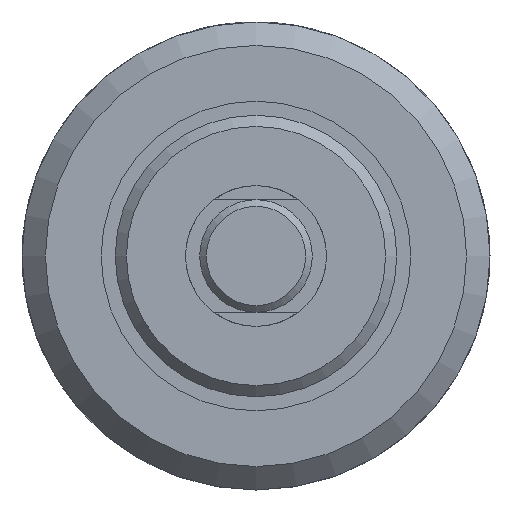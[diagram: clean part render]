
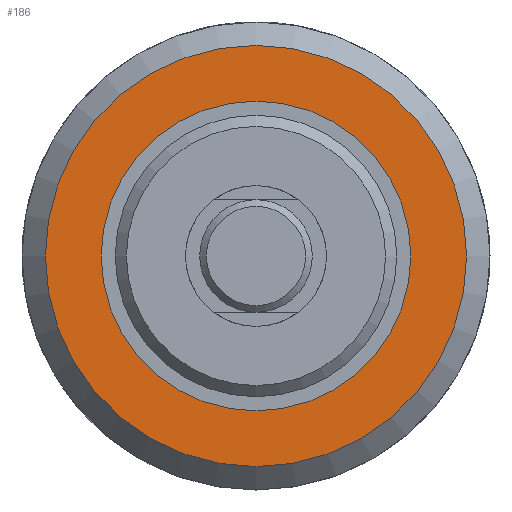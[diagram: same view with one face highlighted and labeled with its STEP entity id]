
A CAD part, left-side view. The second image highlights one B-rep face of the part: STEP entity #186.
In plain terms, the highlighted planar face has unit normal (-1, 0, 0).
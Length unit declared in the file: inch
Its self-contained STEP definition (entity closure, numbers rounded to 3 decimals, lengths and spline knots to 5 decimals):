
#186 = ADVANCED_FACE( '', ( #378, #379 ), #380, .F. );
#378 = FACE_OUTER_BOUND( '', #572, .T. );
#379 = FACE_BOUND( '', #573, .T. );
#380 = PLANE( '', #574 );
#572 = EDGE_LOOP( '', ( #869 ) );
#573 = EDGE_LOOP( '', ( #870 ) );
#574 = AXIS2_PLACEMENT_3D( '', #871, #872, #873 );
#869 = ORIENTED_EDGE( '', *, *, #1042, .F. );
#870 = ORIENTED_EDGE( '', *, *, #1000, .T. );
#871 = CARTESIAN_POINT( '', ( 0.813, 0.6875, 0. ) );
#872 = DIRECTION( '', ( 1., 0., 0. ) );
#873 = DIRECTION( '', ( 0., 0., -1. ) );
#1000 = EDGE_CURVE( '', #1152, #1152, #1153, .T. );
#1042 = EDGE_CURVE( '', #1206, #1206, #1207, .T. );
#1152 = VERTEX_POINT( '', #1416 );
#1153 = CIRCLE( '', #1417, 0.6875 );
#1206 = VERTEX_POINT( '', #1490 );
#1207 = CIRCLE( '', #1491, 0.9351 );
#1416 = CARTESIAN_POINT( '', ( 0.813, 0., -0.6875 ) );
#1417 = AXIS2_PLACEMENT_3D( '', #1607, #1608, #1609 );
#1490 = CARTESIAN_POINT( '', ( 0.813, 0., -0.9351 ) );
#1491 = AXIS2_PLACEMENT_3D( '', #1645, #1646, #1647 );
#1607 = CARTESIAN_POINT( '', ( 0.813, 0., 0. ) );
#1608 = DIRECTION( '', ( 1., 0., 0. ) );
#1609 = DIRECTION( '', ( 0., 0., -1. ) );
#1645 = CARTESIAN_POINT( '', ( 0.813, 0., 0. ) );
#1646 = DIRECTION( '', ( 1., 0., 0. ) );
#1647 = DIRECTION( '', ( 0., 0., -1. ) );
